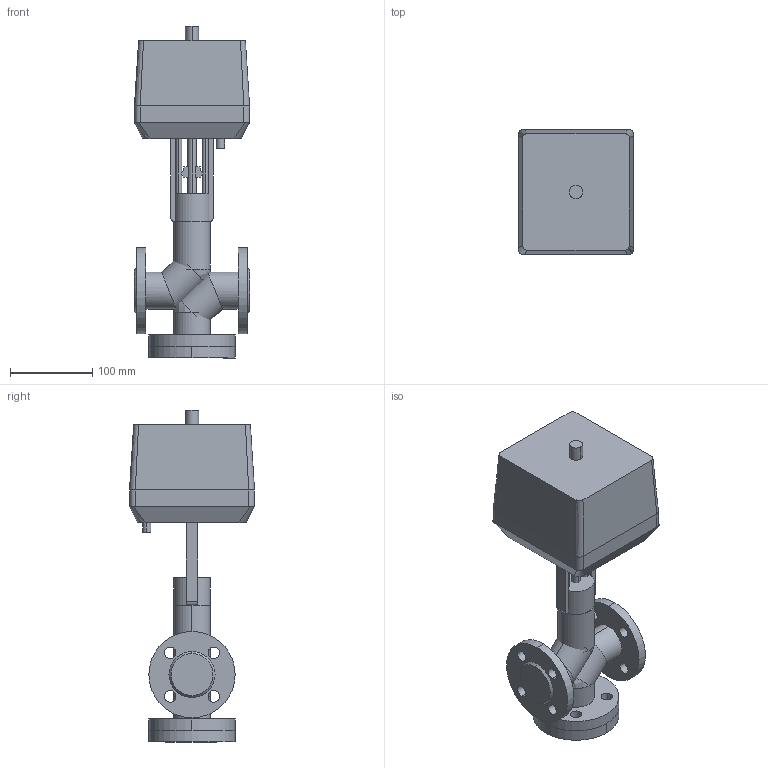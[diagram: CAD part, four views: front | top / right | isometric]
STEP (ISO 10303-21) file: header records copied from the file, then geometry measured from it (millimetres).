
FILE_DESCRIPTION(/* description */ (''),/* implementation_level */ '2;1');
FILE_NAME(/* name */ 'ТРК DN20 PN 2.5 МПа VTM-i 1000H',/* time_stamp */ '2026-07-14T23:22:17+03:00',/* author */ (''),/* organization */ (''),/* preprocessor_version */ 'ST-DEVELOPER v20',/* originating_system */ '',/* authorisation */ '');
FILE_SCHEMA (('AP242_MANAGED_MODEL_BASED_3D_ENGINEERING_MIM_LF { 1 0 10303 442 1 1 4 }'));
Length unit declared in the file: millimetre
Products named in the file (14): TopLevelAssembly; Выдавливание; Модификатор; Модификатор_1; Выдавливание_
1; Выдавливание_
2; Вращение; Выдавливание_
3; Выдавливание_
4; 1600; Переход; Объемная геометрия 
присоединена; Полый Выдавливание; Объемная геометрия 
присоединена_1
Assembly tree (13 placements, depth 2):
  TopLevelAssembly
    Выдавливание
    Модификатор
    Модификатор_1
    Выдавливание_
1
    Выдавливание_
2
    Вращение
    Выдавливание_
3
    Выдавливание_
4
    1600
    Переход
    Объемная геометрия 
присоединена
    Полый Выдавливание
    Объемная геометрия 
присоединена_1
Bounding box: 140 x 152 x 404 mm (x, y, z)
Volume: 3312221 mm3; surface area: 367258.1 mm2
Topology: 21 solids, 21 shells, 166 faces, 372 edges, 244 vertices
Faces by surface type: plane 78, cylinder 72, bspline 12, cone 4
Entity records: 5367 total; most frequent: CARTESIAN_POINT 1081, DIRECTION 906, ORIENTED_EDGE 728, EDGE_CURVE 364, AXIS2_PLACEMENT_3D 361, VERTEX_POINT 244, EDGE_LOOP 200, LINE 184
